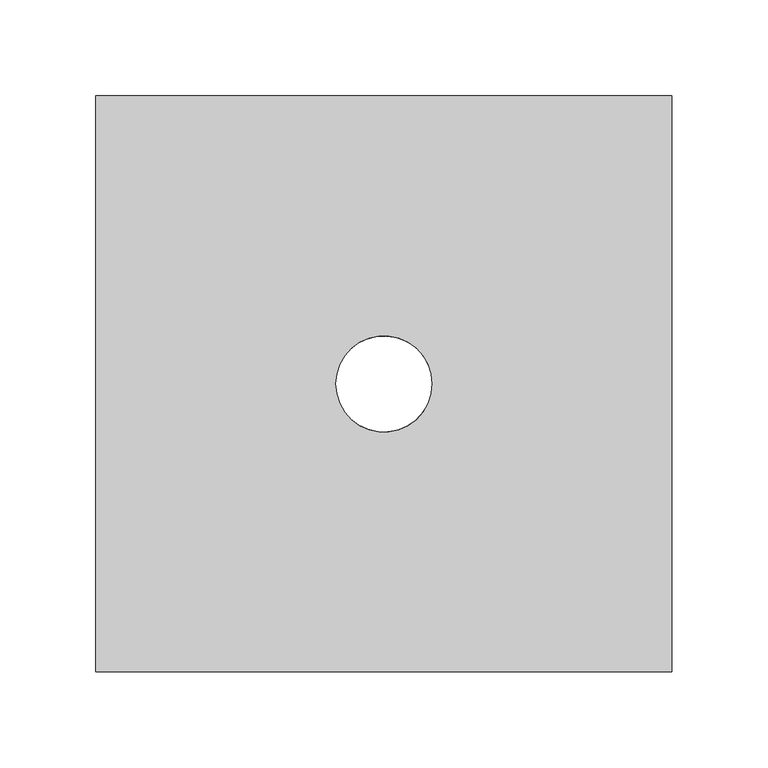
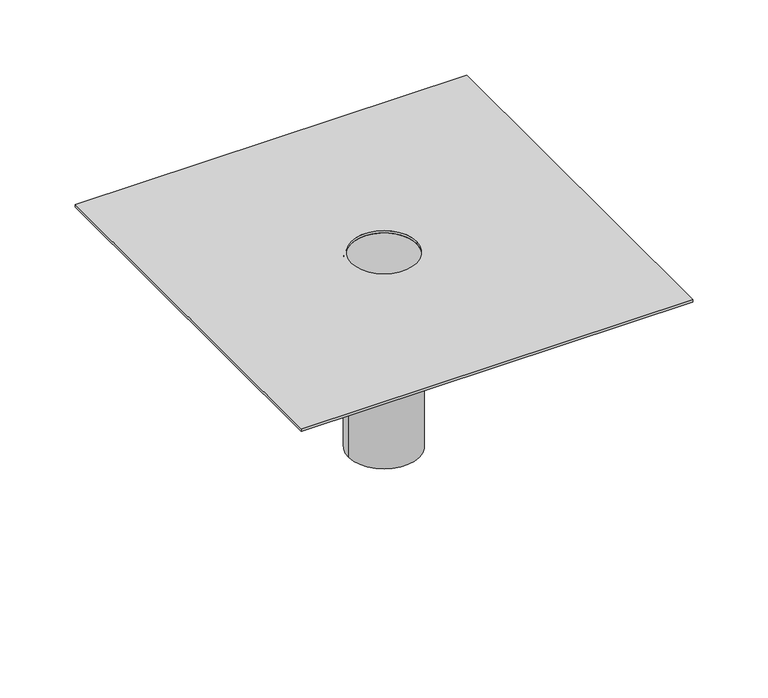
"""IFC4 building model written with IfcOpenShell, lengths in millimetres: proxy geometry, Modelos genéricos 1 : Modelos genéricos 1."""

from ifc_helpers import new_model, si_unit, point, frame, frame_2d, origin, place, context, project, spatial, polyline, circle_curve, trimmed, segment, composite_curve, outline, extrude, source, transform, mapped, element, save


def generic_models_708a6e04(model_context):
    return source(origin(), model_context, "Body", "SweptSolid", [
        extrude(outline(composite_curve([segment(trimmed(circle_curve(frame_2d((922.6644952, -1237.9912025)), 27.0), [point((895.6644952, -1237.9912025))], [point((949.6644952, -1237.9912025))], False, "CARTESIAN"), True, "CONTINUOUS"), segment(trimmed(circle_curve(frame_2d((922.6644952, -1237.9912025)), 27.0), [point((949.6644952, -1237.9912025))], [point((895.6644952, -1237.9912025))], False, "CARTESIAN"), True, "CONTINUOUS")], self_intersect=False), holes=[composite_curve([segment(trimmed(circle_curve(frame_2d((922.6644952, -1237.9912025)), 25.0), [point((897.6644952, -1237.9912025))], [point((942.1737965, -1253.6240898))], True, "CARTESIAN"), True, "CONTINUOUS"), segment(trimmed(circle_curve(frame_2d((922.6644952, -1237.9912025)), 25.0), [point((942.1737965, -1253.6240898))], [point((897.6644952, -1237.9912025))], True, "CARTESIAN"), True, "CONTINUOUS")], self_intersect=False)]), frame((0.0, 0.0, -135.523798), z_axis=(0.0, 0.0, 1.0), x_axis=(1.0, 0.0, 0.0)), (0.0, 0.0, 1.0), 154.9299739),
        extrude(outline(polyline([(1072.6644952, -1087.9912025), (1072.6644952, -1387.9912025), (772.6644952, -1387.9912025), (772.6644952, -1087.9912025), (1072.6644952, -1087.9912025)]), holes=[composite_curve([segment(trimmed(circle_curve(frame_2d((922.6644952, -1237.9912025)), 25.0), [point((897.6644952, -1237.9912025))], [point((947.6644952, -1237.9912025))], True, "CARTESIAN"), True, "CONTINUOUS"), segment(trimmed(circle_curve(frame_2d((922.6644952, -1237.9912025)), 25.0), [point((947.6644952, -1237.9912025))], [point((897.6644952, -1237.9912025))], True, "CARTESIAN"), True, "CONTINUOUS")], self_intersect=False)]), frame((0.0, 0.0, 19.4061759), z_axis=(0.0, 0.0, 1.0), x_axis=(1.0, 0.0, 0.0)), (0.0, 0.0, 1.0), 2.0735733),
    ])


if __name__ == "__main__":
    model = new_model("IFC4")
    model_context = context("Model", 3, world=origin())
    ifc_project = project(units=[si_unit("LENGTHUNIT", "METRE", prefix="MILLI")], contexts=[model_context])
    site = spatial("IfcSite", under=ifc_project)
    building = spatial("IfcBuilding", under=site)
    placement = place(None, origin())
    generic_models_shape = generic_models_708a6e04(model_context)
    element("IfcBuildingElementProxy", 1, Name="Modelos genéricos 1 : Modelos genéricos 1", ObjectType="Modelos genéricos 1 : Modelos genéricos 1", at=placement, inside=building, context=model_context, shape_type="MappedRepresentation", body=[
        mapped(generic_models_shape, transform((0.0, 0.0, 0.0), x_axis=(1.0, 0.0, 0.0), y_axis=(0.0, 1.0, 0.0), z_axis=(0.0, 0.0, 1.0))),
    ])
    save(model, "model.ifc")
